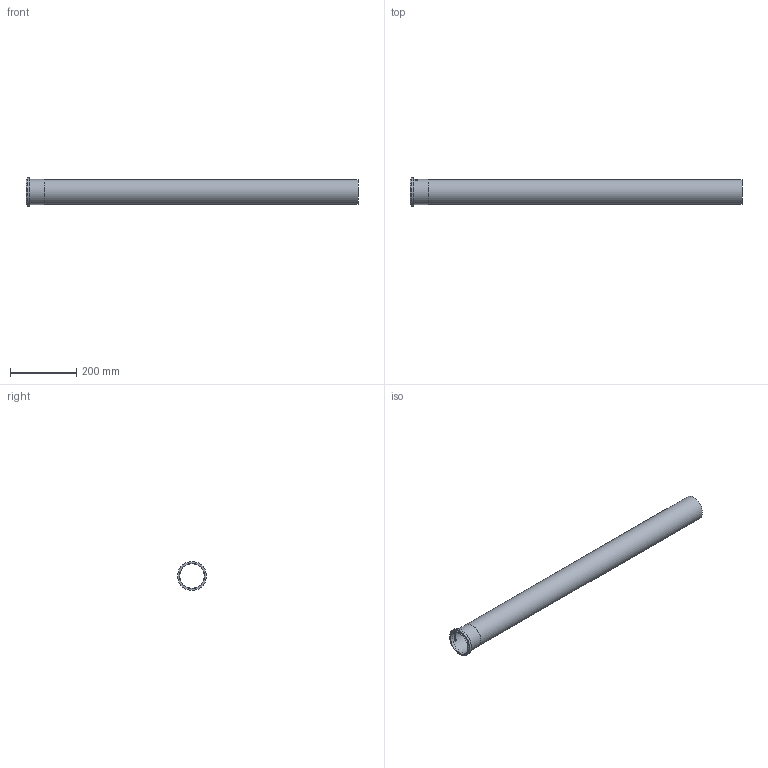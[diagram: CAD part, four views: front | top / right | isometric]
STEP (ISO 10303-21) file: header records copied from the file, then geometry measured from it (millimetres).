
FILE_DESCRIPTION((''),'2;1');
FILE_NAME('I:\WATTS\3D_CAD\3D_CAD_Models\Blucher_Drains\P_StraightPipe\WebsiteFiles\3D\STEP\P3-3.3-316.stp','2009-12-02T14:11:01',('menesek'),(''),'Autodesk Inventor 2010','Autodesk Inventor 2010','');
FILE_SCHEMA(('AUTOMOTIVE_DESIGN { 1 0 10303 214 1 1 1 1 }'));
Length unit declared in the file: inch
Products named in the file (1): P3-3.3-316
Bounding box: 1000 x 87.12 x 87.12 mm (x, y, z)
Volume: 251657.4 mm3; surface area: 468446.3 mm2
Topology: 1 solids, 1 shells, 109 faces, 285 edges, 190 vertices
Faces by surface type: plane 59, bspline 34, cylinder 16
Full cylindrical faces by diameter (mm): 72.898 x1, 74.93 x1, 75.946 x2, 87.122 x1
Entity records: 13765 total; most frequent: CARTESIAN_POINT 11387, ORIENTED_EDGE 548, DIRECTION 356, EDGE_CURVE 274, VERTEX_POINT 186, EDGE_LOOP 128, AXIS2_PLACEMENT_3D 120, VECTOR 116
